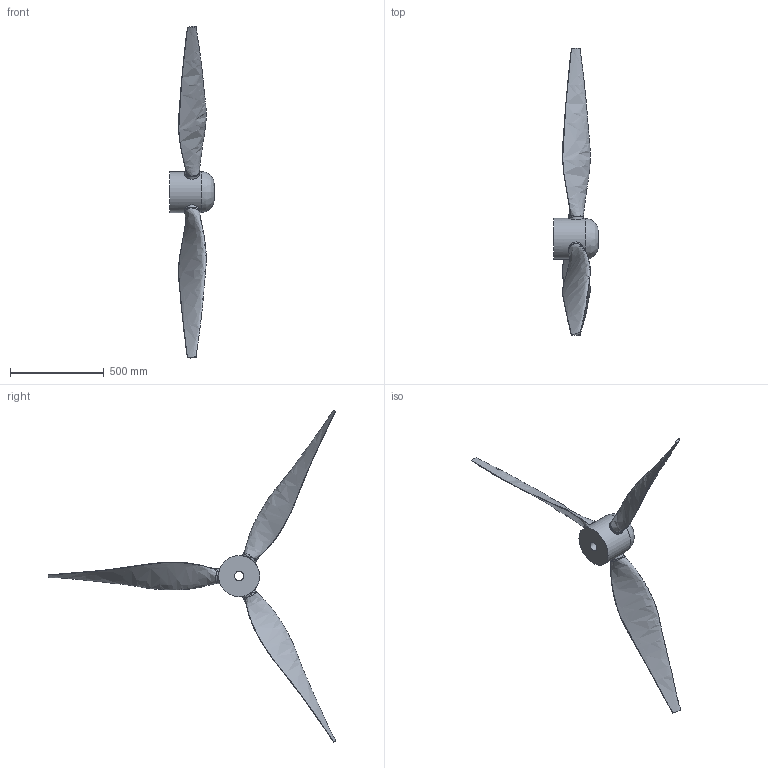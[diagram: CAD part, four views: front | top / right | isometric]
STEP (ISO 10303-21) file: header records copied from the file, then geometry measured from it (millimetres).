
FILE_DESCRIPTION(/* description */ (''),/* implementation_level */ '2;1');
FILE_NAME(/* name */ 'Assieme1_eolico_naca.stp',/* time_stamp */ '2025-02-14T09:22:25+01:00',/* author */ ('Ryzen5700u'),/* organization */ (''),/* preprocessor_version */ 'ST-DEVELOPER v20',/* originating_system */ 'Autodesk Inventor 2025',/* authorisation */ '');
FILE_SCHEMA (('AUTOMOTIVE_DESIGN { 1 0 10303 214 3 1 1 }'));
Length unit declared in the file: millimetre
Products named in the file (3): Assieme1_eolico_naca; aolico naca2.; blocco
Assembly tree (4 placements, depth 2):
  Assieme1_eolico_naca
    aolico naca2.  x3
    blocco
Bounding box: 240 x 1537.01 x 1774.27 mm (x, y, z)
Volume: 16732644.2 mm3; surface area: 1145865.1 mm2
Topology: 4 solids, 4 shells, 42 faces, 128 edges, 64 vertices
Faces by surface type: bspline 25, cylinder 9, plane 8
Full cylindrical faces by diameter (mm): 50 x2, 80 x6, 220 x1
Entity records: 3267 total; most frequent: CARTESIAN_POINT 2693, ORIENTED_EDGE 110, DIRECTION 73, EDGE_CURVE 55, VERTEX_POINT 36, B_SPLINE_CURVE_WITH_KNOTS 33, AXIS2_PLACEMENT_3D 33, EDGE_LOOP 25
